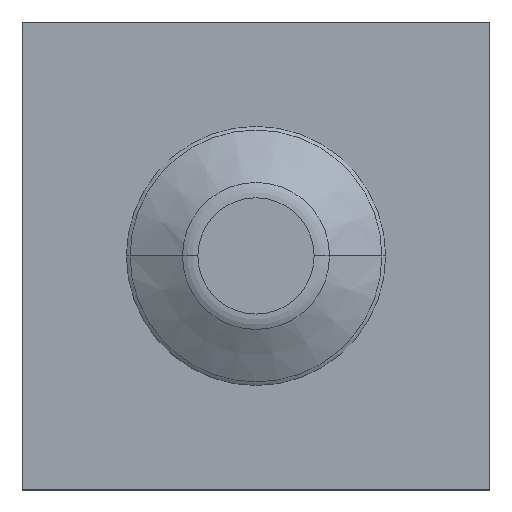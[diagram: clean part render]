
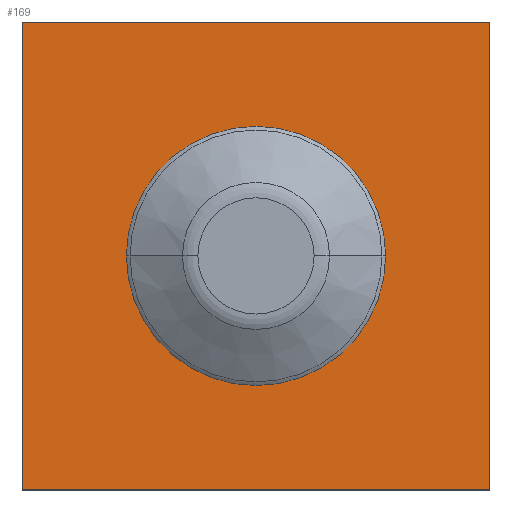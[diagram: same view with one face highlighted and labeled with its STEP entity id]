
A CAD part, top view. The second image highlights one B-rep face of the part: STEP entity #169.
In plain terms, the highlighted planar face has unit normal (0, 0, 1).
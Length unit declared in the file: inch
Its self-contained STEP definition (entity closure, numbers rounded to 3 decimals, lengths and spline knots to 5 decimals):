
#55=CARTESIAN_POINT('',(4.97067,9.17717,-0.06006));
#56=VERTEX_POINT('',#55);
#65=CARTESIAN_POINT('',(3.47067,9.17717,-0.06006));
#66=VERTEX_POINT('',#65);
#67=CARTESIAN_POINT('',(-30.42925,9.17717,-0.06006));
#68=DIRECTION('',(1.0,0.0,0.0));
#69=VECTOR('',#68,1.0);
#70=LINE('',#67,#69);
#71=EDGE_CURVE('',#66,#56,#70,.T.);
#96=CARTESIAN_POINT('',(3.47067,10.67717,-0.06006));
#97=VERTEX_POINT('',#96);
#98=CARTESIAN_POINT('',(3.47067,-8.66631,-0.06006));
#99=DIRECTION('',(0.0,-1.0,0.0));
#100=VECTOR('',#99,1.0);
#101=LINE('',#98,#100);
#102=EDGE_CURVE('',#97,#66,#101,.T.);
#126=ORIENTED_EDGE('',*,*,#71,.T.);
#127=CARTESIAN_POINT('',(4.97067,10.67717,-0.06006));
#128=VERTEX_POINT('',#127);
#129=CARTESIAN_POINT('',(4.97067,-13.59009,-0.06006));
#130=DIRECTION('',(0.0,1.0,0.0));
#131=VECTOR('',#130,1.0);
#132=LINE('',#129,#131);
#133=EDGE_CURVE('',#56,#128,#132,.T.);
#134=ORIENTED_EDGE('',*,*,#133,.T.);
#135=CARTESIAN_POINT('',(-47.93031,10.67717,-0.06006));
#136=DIRECTION('',(-1.0,0.0,0.0));
#137=VECTOR('',#136,1.0);
#138=LINE('',#135,#137);
#139=EDGE_CURVE('',#128,#97,#138,.T.);
#140=ORIENTED_EDGE('',*,*,#139,.T.);
#141=ORIENTED_EDGE('',*,*,#102,.T.);
#142=EDGE_LOOP('',(#126,#134,#140,#141));
#143=FACE_OUTER_BOUND('',#142,.T.);
#144=CARTESIAN_POINT('',(3.80544,9.92717,-0.06006));
#145=VERTEX_POINT('',#144);
#146=CARTESIAN_POINT('',(4.63589,9.92717,-0.06006));
#147=VERTEX_POINT('',#146);
#148=CARTESIAN_POINT('',(4.22067,9.92717,-0.06006));
#149=DIRECTION('',(0.0,0.0,1.0));
#150=DIRECTION('',(-1.0,0.,0.0));
#151=AXIS2_PLACEMENT_3D('',#148,#149,#150);
#152=CIRCLE('',#151,0.41522);
#153=EDGE_CURVE('',#145,#147,#152,.T.);
#154=ORIENTED_EDGE('',*,*,#153,.F.);
#155=CARTESIAN_POINT('',(4.22067,9.92717,-0.06006));
#156=DIRECTION('',(0.0,0.0,1.0));
#157=DIRECTION('',(1.0,0.,0.0));
#158=AXIS2_PLACEMENT_3D('',#155,#156,#157);
#159=CIRCLE('',#158,0.41522);
#160=EDGE_CURVE('',#147,#145,#159,.T.);
#161=ORIENTED_EDGE('',*,*,#160,.F.);
#162=EDGE_LOOP('',(#154,#161));
#163=FACE_BOUND('',#162,.T.);
#164=CARTESIAN_POINT('',(0.21831,6.25984,-0.06006));
#165=DIRECTION('',(0.0,0.0,1.0));
#166=DIRECTION('',(1.0,0.0,0.0));
#167=AXIS2_PLACEMENT_3D('',#164,#165,#166);
#168=PLANE('',#167);
#169=ADVANCED_FACE('',(#143,#163),#168,.T.);
